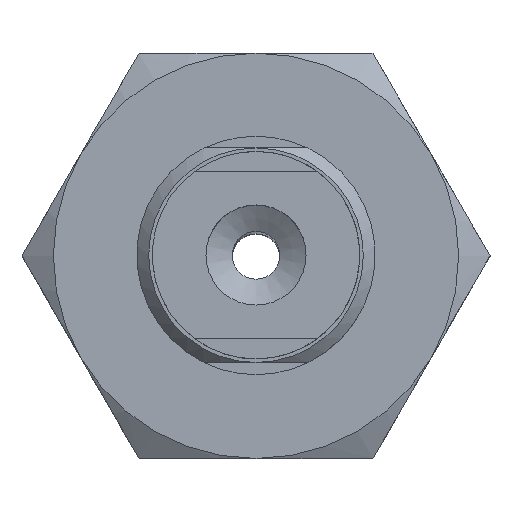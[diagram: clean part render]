
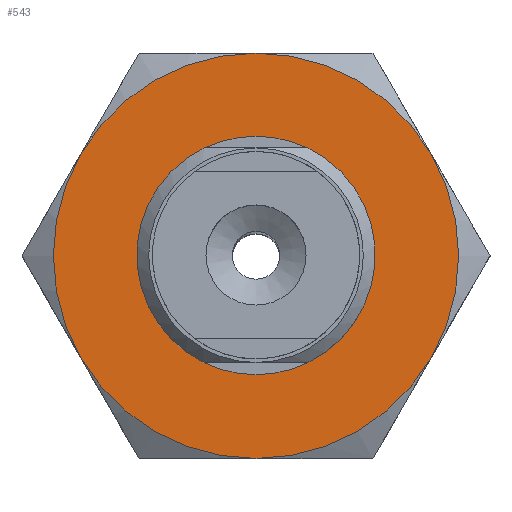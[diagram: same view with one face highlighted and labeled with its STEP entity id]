
A CAD part, top view. The second image highlights one B-rep face of the part: STEP entity #543.
In plain terms, the highlighted planar face has unit normal (0, 0, 1).
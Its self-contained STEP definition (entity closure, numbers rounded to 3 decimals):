
#543=ADVANCED_FACE('',(#729,#730),#731,.T.);
#729=FACE_BOUND('',#1060,.T.);
#730=FACE_OUTER_BOUND('',#1061,.T.);
#731=PLANE('',#1062);
#1060=EDGE_LOOP('',(#1551));
#1061=EDGE_LOOP('',(#1552,#1553,#1554,#1555,#1556,#1557));
#1062=AXIS2_PLACEMENT_3D('',#1558,#1559,#1560);
#1551=ORIENTED_EDGE('',*,*,#2250,.F.);
#1552=ORIENTED_EDGE('',*,*,#2251,.F.);
#1553=ORIENTED_EDGE('',*,*,#2244,.F.);
#1554=ORIENTED_EDGE('',*,*,#2220,.F.);
#1555=ORIENTED_EDGE('',*,*,#2223,.F.);
#1556=ORIENTED_EDGE('',*,*,#2252,.F.);
#1557=ORIENTED_EDGE('',*,*,#2253,.F.);
#1558=CARTESIAN_POINT('',(-9.815,-8.5,4.0));
#1559=DIRECTION('',(0.0,0.0,1.0));
#1560=DIRECTION('',(1.0,0.0,0.0));
#2220=EDGE_CURVE('',#2475,#2476,#2477,.T.);
#2223=EDGE_CURVE('',#2481,#2475,#2482,.T.);
#2244=EDGE_CURVE('',#2476,#2516,#2517,.T.);
#2250=EDGE_CURVE('',#2525,#2525,#2526,.T.);
#2251=EDGE_CURVE('',#2516,#2527,#2528,.T.);
#2252=EDGE_CURVE('',#2529,#2481,#2530,.T.);
#2253=EDGE_CURVE('',#2527,#2529,#2531,.T.);
#2475=VERTEX_POINT('',#2965);
#2476=VERTEX_POINT('',#2966);
#2477=CIRCLE('',#2967,8.5);
#2481=VERTEX_POINT('',#2979);
#2482=CIRCLE('',#2980,8.5);
#2516=VERTEX_POINT('',#3060);
#2517=CIRCLE('',#3061,8.5);
#2525=VERTEX_POINT('',#3086);
#2526=CIRCLE('',#3087,4.5);
#2527=VERTEX_POINT('',#3088);
#2528=CIRCLE('',#3089,8.5);
#2529=VERTEX_POINT('',#3090);
#2530=CIRCLE('',#3091,8.5);
#2531=CIRCLE('',#3092,8.5);
#2965=CARTESIAN_POINT('',(7.361,4.25,4.0));
#2966=CARTESIAN_POINT('',(7.361,-4.25,4.0));
#2967=AXIS2_PLACEMENT_3D('',#3523,#3524,#3525);
#2979=CARTESIAN_POINT('',(0.,8.5,4.0));
#2980=AXIS2_PLACEMENT_3D('',#3526,#3527,#3528);
#3060=CARTESIAN_POINT('',(0.,-8.5,4.0));
#3061=AXIS2_PLACEMENT_3D('',#3552,#3553,#3554);
#3086=CARTESIAN_POINT('',(0.0,-4.5,4.0));
#3087=AXIS2_PLACEMENT_3D('',#3556,#3557,#3558);
#3088=CARTESIAN_POINT('',(-7.361,-4.25,4.0));
#3089=AXIS2_PLACEMENT_3D('',#3559,#3560,#3561);
#3090=CARTESIAN_POINT('',(-7.361,4.25,4.0));
#3091=AXIS2_PLACEMENT_3D('',#3562,#3563,#3564);
#3092=AXIS2_PLACEMENT_3D('',#3565,#3566,#3567);
#3523=CARTESIAN_POINT('',(0.,0.,4.0));
#3524=DIRECTION('',(0.,0.,-1.0));
#3525=DIRECTION('',(0.866,0.5,0.));
#3526=CARTESIAN_POINT('',(0.,0.,4.0));
#3527=DIRECTION('',(0.,0.,-1.0));
#3528=DIRECTION('',(0.866,0.5,0.));
#3552=CARTESIAN_POINT('',(0.,0.,4.0));
#3553=DIRECTION('',(0.,0.,-1.0));
#3554=DIRECTION('',(0.866,0.5,0.));
#3556=CARTESIAN_POINT('',(0.0,0.0,4.0));
#3557=DIRECTION('',(0.0,0.,1.0));
#3558=DIRECTION('',(0.0,-1.0,0.));
#3559=CARTESIAN_POINT('',(0.,0.,4.0));
#3560=DIRECTION('',(0.,0.,-1.0));
#3561=DIRECTION('',(0.866,0.5,0.));
#3562=CARTESIAN_POINT('',(0.,0.,4.0));
#3563=DIRECTION('',(0.,0.,-1.0));
#3564=DIRECTION('',(0.866,0.5,0.));
#3565=CARTESIAN_POINT('',(0.,0.,4.0));
#3566=DIRECTION('',(0.,0.,-1.0));
#3567=DIRECTION('',(0.866,0.5,0.));
